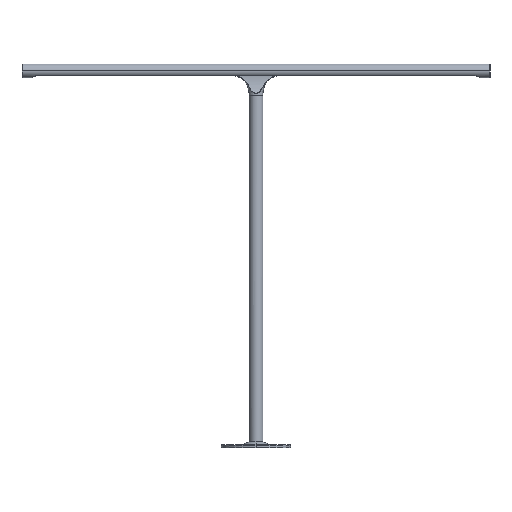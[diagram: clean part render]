
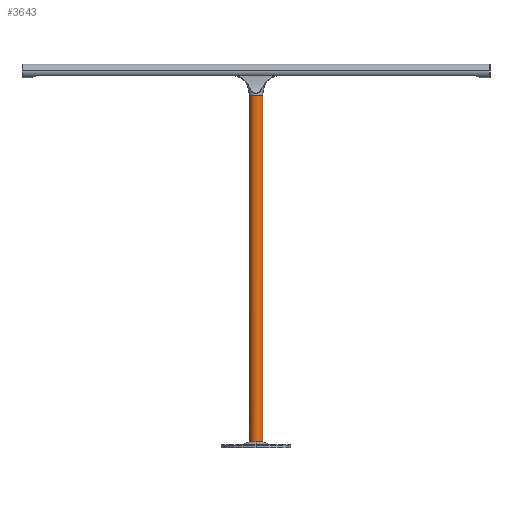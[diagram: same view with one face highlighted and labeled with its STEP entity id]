
A CAD part, top view. The second image highlights one B-rep face of the part: STEP entity #3643.
In plain terms, the highlighted cylindrical face has radius 8 mm (diameter 16 mm), a partial arc.
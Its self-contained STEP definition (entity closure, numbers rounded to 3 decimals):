
#158 = CARTESIAN_POINT ( 'NONE',  ( 1.047, -28., 8. ) ) ;
#268 = ORIENTED_EDGE ( 'NONE', *, *, #909, .F. ) ;
#500 = AXIS2_PLACEMENT_3D ( 'NONE', #4616, #5810, #5896 ) ;
#554 = DIRECTION ( 'NONE',  ( 0., 0., 1. ) ) ;
#645 = CARTESIAN_POINT ( 'NONE',  ( 0., -28., 8. ) ) ;
#658 = CARTESIAN_POINT ( 'NONE',  ( 0., -428., 8. ) ) ;
#817 = CARTESIAN_POINT ( 'NONE',  ( 0., -28., 8. ) ) ;
#909 = EDGE_CURVE ( 'NONE', #3918, #4271, #5708, .T. ) ;
#993 = ORIENTED_EDGE ( 'NONE', *, *, #4486, .T. ) ;
#1014 = EDGE_CURVE ( 'NONE', #4325, #3918, #3061, .T. ) ;
#1060 = CARTESIAN_POINT ( 'NONE',  ( -8., -428., 0. ) ) ;
#1199 = ORIENTED_EDGE ( 'NONE', *, *, #5414, .T. ) ;
#1401 = VECTOR ( 'NONE', #3548, 1000. ) ;
#1517 = AXIS2_PLACEMENT_3D ( 'NONE', #1818, #3712, #2438 ) ;
#1763 = DIRECTION ( 'NONE',  ( 0., 1., 0. ) ) ;
#1793 = CARTESIAN_POINT ( 'NONE',  ( 0., -28., 8. ) ) ;
#1818 = CARTESIAN_POINT ( 'NONE',  ( 0., -428., 0. ) ) ;
#1951 = CARTESIAN_POINT ( 'NONE',  ( 8., -28., 1.047 ) ) ;
#1973 = CARTESIAN_POINT ( 'NONE',  ( 7.792, -28., 2.094 ) ) ;
#2024 = CARTESIAN_POINT ( 'NONE',  ( -7.775, -28., 1.925 ) ) ;
#2118 = ORIENTED_EDGE ( 'NONE', *, *, #6790, .T. ) ;
#2127 = CARTESIAN_POINT ( 'NONE',  ( -6.72, -28., 5.562 ) ) ;
#2188 = VERTEX_POINT ( 'NONE', #7121 ) ;
#2438 = DIRECTION ( 'NONE',  ( 0., 0., 1. ) ) ;
#2877 = AXIS2_PLACEMENT_3D ( 'NONE', #5337, #1763, #554 ) ;
#3061 = LINE ( 'NONE', #4766, #6031 ) ;
#3116 = CARTESIAN_POINT ( 'NONE',  ( 6.397, -28., 4.916 ) ) ;
#3177 = FACE_OUTER_BOUND ( 'NONE', #5218, .T. ) ;
#3237 = CIRCLE ( 'NONE', #1517, 8. ) ;
#3331 = CIRCLE ( 'NONE', #2877, 8. ) ;
#3548 = DIRECTION ( 'NONE',  ( 0., 1., 0. ) ) ;
#3600 = CARTESIAN_POINT ( 'NONE',  ( 8., -43., 0. ) ) ;
#3643 = ADVANCED_FACE ( 'NONE', ( #3177 ), #4575, .T. ) ;
#3712 = DIRECTION ( 'NONE',  ( 0., 1., 0. ) ) ;
#3742 = CARTESIAN_POINT ( 'NONE',  ( 2.094, -28., 7.792 ) ) ;
#3904 = CARTESIAN_POINT ( 'NONE',  ( -7.982, -28., 0.658 ) ) ;
#3918 = VERTEX_POINT ( 'NONE', #7642 ) ;
#4025 = CARTESIAN_POINT ( 'NONE',  ( 0., -28., 8. ) ) ;
#4271 = VERTEX_POINT ( 'NONE', #4025 ) ;
#4325 = VERTEX_POINT ( 'NONE', #1060 ) ;
#4378 = CARTESIAN_POINT ( 'NONE',  ( 4.916, -28., 6.397 ) ) ;
#4406 = CARTESIAN_POINT ( 'NONE',  ( -8., -28., 0.221 ) ) ;
#4424 = CARTESIAN_POINT ( 'NONE',  ( -8., -28., 0. ) ) ;
#4486 = EDGE_CURVE ( 'NONE', #2188, #4271, #4906, .T. ) ;
#4575 = CYLINDRICAL_SURFACE ( 'NONE', #500, 8. ) ;
#4616 = CARTESIAN_POINT ( 'NONE',  ( 0., -43., 0. ) ) ;
#4766 = CARTESIAN_POINT ( 'NONE',  ( -8., -43., 0. ) ) ;
#4778 = CARTESIAN_POINT ( 'NONE',  ( -3.532, -28., 8. ) ) ;
#4906 = B_SPLINE_CURVE_WITH_KNOTS ( 'NONE', 3,
 ( #5552, #1951, #1973, #7325, #3116, #4378, #4940, #3742, #158, #817 ),
 .UNSPECIFIED., .F., .F.,
 ( 4, 2, 2, 2, 4 ),
 ( 0.5, 0.625, 0.75, 0.875, 1. ),
 .UNSPECIFIED. ) ;
#4940 = CARTESIAN_POINT ( 'NONE',  ( 4.029, -28., 6.99 ) ) ;
#5062 = CARTESIAN_POINT ( 'NONE',  ( 8., -428., 0. ) ) ;
#5218 = EDGE_LOOP ( 'NONE', ( #2118, #5237, #1199, #993, #268, #5961 ) ) ;
#5237 = ORIENTED_EDGE ( 'NONE', *, *, #7524, .T. ) ;
#5337 = CARTESIAN_POINT ( 'NONE',  ( 0., -428., 0. ) ) ;
#5414 = EDGE_CURVE ( 'NONE', #5516, #2188, #7186, .T. ) ;
#5421 = CARTESIAN_POINT ( 'NONE',  ( 0., -28., 8. ) ) ;
#5516 = VERTEX_POINT ( 'NONE', #5062 ) ;
#5552 = CARTESIAN_POINT ( 'NONE',  ( 8., -28., 0. ) ) ;
#5581 = CARTESIAN_POINT ( 'NONE',  ( -7.903, -28., 1.3 ) ) ;
#5708 = B_SPLINE_CURVE_WITH_KNOTS ( 'NONE', 3,
 ( #4424, #4406, #3904, #5581, #2024, #2127, #4778, #5421, #645, #1793 ),
 .UNSPECIFIED., .F., .F.,
 ( 4, 1, 1, 1, 1, 2, 4 ),
 ( 0., 0.013, 0.025, 0.038, 0.05, 0.25, 0.25 ),
 .UNSPECIFIED. ) ;
#5810 = DIRECTION ( 'NONE',  ( 0., 1., 0. ) ) ;
#5896 = DIRECTION ( 'NONE',  ( -1., 0., 0. ) ) ;
#5961 = ORIENTED_EDGE ( 'NONE', *, *, #1014, .F. ) ;
#6031 = VECTOR ( 'NONE', #7673, 1000. ) ;
#6790 = EDGE_CURVE ( 'NONE', #4325, #7376, #3237, .T. ) ;
#7121 = CARTESIAN_POINT ( 'NONE',  ( 8., -28., 0. ) ) ;
#7186 = LINE ( 'NONE', #3600, #1401 ) ;
#7325 = CARTESIAN_POINT ( 'NONE',  ( 6.99, -28., 4.029 ) ) ;
#7376 = VERTEX_POINT ( 'NONE', #658 ) ;
#7524 = EDGE_CURVE ( 'NONE', #7376, #5516, #3331, .T. ) ;
#7642 = CARTESIAN_POINT ( 'NONE',  ( -8., -28., 0. ) ) ;
#7673 = DIRECTION ( 'NONE',  ( 0., 1., 0. ) ) ;
